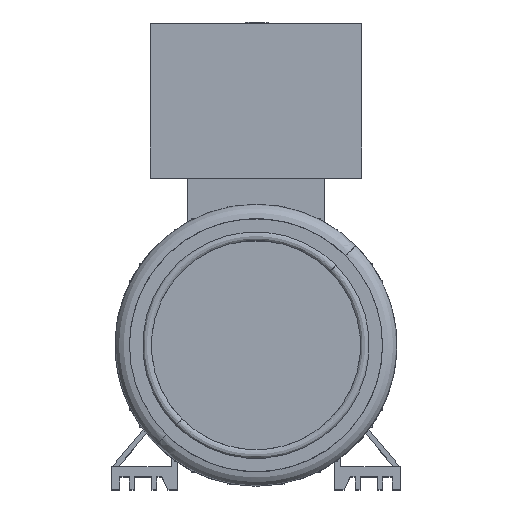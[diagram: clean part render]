
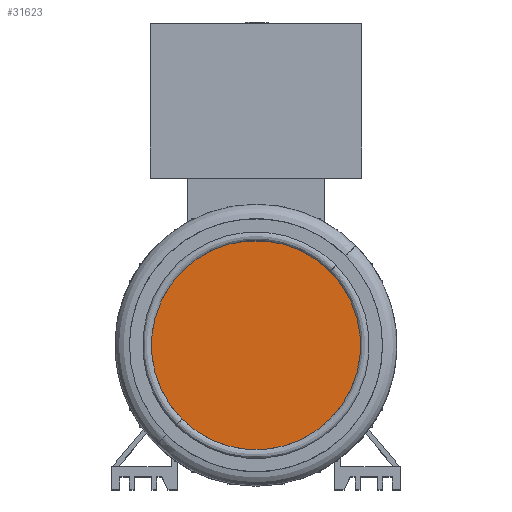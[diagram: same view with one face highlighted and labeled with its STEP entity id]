
A CAD part, top view. The second image highlights one B-rep face of the part: STEP entity #31623.
In plain terms, the highlighted planar face has unit normal (0, 0, 1).
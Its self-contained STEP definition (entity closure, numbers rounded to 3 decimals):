
#52 = AXIS2_PLACEMENT_3D ( 'NONE', #32180, #20120, #7809 ) ;
#528 = FACE_OUTER_BOUND ( 'NONE', #8534, .T. ) ;
#3930 = CIRCLE ( 'NONE', #52, 65.289 ) ;
#4472 = PLANE ( 'NONE',  #29225 ) ;
#4816 = VERTEX_POINT ( 'NONE', #28045 ) ;
#5603 = ORIENTED_EDGE ( 'NONE', *, *, #32189, .F. ) ;
#5944 = CIRCLE ( 'NONE', #30486, 65.289 ) ;
#6479 = ORIENTED_EDGE ( 'NONE', *, *, #25534, .F. ) ;
#7809 = DIRECTION ( 'NONE',  ( 0., 1., 0. ) ) ;
#7869 = VERTEX_POINT ( 'NONE', #27889 ) ;
#8534 = EDGE_LOOP ( 'NONE', ( #5603, #6479 ) ) ;
#13252 = DIRECTION ( 'NONE',  ( 0., 0., -1. ) ) ;
#14607 = DIRECTION ( 'NONE',  ( 0., 0., -1. ) ) ;
#17120 = DIRECTION ( 'NONE',  ( 0., 1., 0. ) ) ;
#20120 = DIRECTION ( 'NONE',  ( 0., 0., -1. ) ) ;
#25373 = DIRECTION ( 'NONE',  ( 0., 1., 0. ) ) ;
#25534 = EDGE_CURVE ( 'NONE', #4816, #7869, #3930, .T. ) ;
#27889 = CARTESIAN_POINT ( 'NONE',  ( -46.166, -46.166, 159. ) ) ;
#28045 = CARTESIAN_POINT ( 'NONE',  ( 46.166, 46.166, 159. ) ) ;
#28086 = CARTESIAN_POINT ( 'NONE',  ( 0., 0., 159. ) ) ;
#29225 = AXIS2_PLACEMENT_3D ( 'NONE', #29446, #14607, #17120 ) ;
#29446 = CARTESIAN_POINT ( 'NONE',  ( -46.246, 46.246, 159. ) ) ;
#30486 = AXIS2_PLACEMENT_3D ( 'NONE', #28086, #13252, #25373 ) ;
#31623 = ADVANCED_FACE ( 'NONE', ( #528 ), #4472, .F. ) ;
#32180 = CARTESIAN_POINT ( 'NONE',  ( 0., 0., 159. ) ) ;
#32189 = EDGE_CURVE ( 'NONE', #7869, #4816, #5944, .T. ) ;
